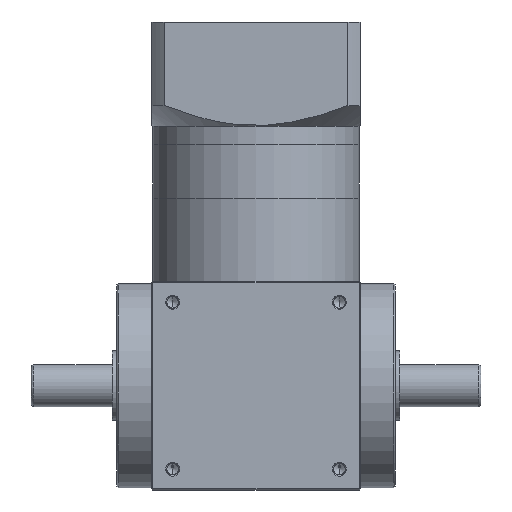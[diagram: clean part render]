
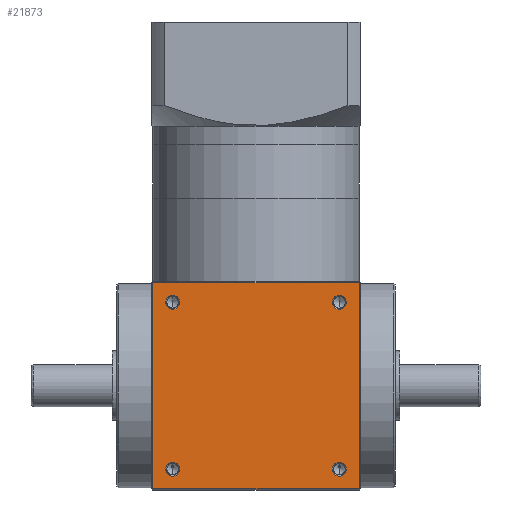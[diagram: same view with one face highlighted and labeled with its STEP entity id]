
A CAD part, front view. The second image highlights one B-rep face of the part: STEP entity #21873.
In plain terms, the highlighted planar face has unit normal (0, -1, 0).
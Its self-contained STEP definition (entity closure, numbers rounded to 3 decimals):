
#245 = CIRCLE ( 'NONE', #16209, 3.025 ) ;
#1349 = VERTEX_POINT ( 'NONE', #24664 ) ;
#2423 = EDGE_CURVE ( 'NONE', #4355, #1349, #16647, .T. ) ;
#2485 = CIRCLE ( 'NONE', #6340, 3.025 ) ;
#2521 = ORIENTED_EDGE ( 'NONE', *, *, #35651, .F. ) ;
#4120 = FACE_BOUND ( 'NONE', #20758, .T. ) ;
#4355 = VERTEX_POINT ( 'NONE', #14441 ) ;
#4534 = CARTESIAN_POINT ( 'NONE',  ( 36., -45., 84.025 ) ) ;
#5221 = CARTESIAN_POINT ( 'NONE',  ( -44.5, -45., 90. ) ) ;
#5791 = EDGE_CURVE ( 'NONE', #28546, #15849, #2485, .T. ) ;
#6340 = AXIS2_PLACEMENT_3D ( 'NONE', #21601, #48656, #25481 ) ;
#6358 = VERTEX_POINT ( 'NONE', #31583 ) ;
#6648 = EDGE_CURVE ( 'NONE', #15849, #28546, #41697, .T. ) ;
#6704 = LINE ( 'NONE', #32397, #25990 ) ;
#6741 = CARTESIAN_POINT ( 'NONE',  ( -36., -45., 9. ) ) ;
#7236 = VECTOR ( 'NONE', #26764, 1000. ) ;
#7255 = DIRECTION ( 'NONE',  ( 0., -1., 0. ) ) ;
#7487 = ORIENTED_EDGE ( 'NONE', *, *, #46150, .F. ) ;
#7703 = EDGE_CURVE ( 'NONE', #25062, #26812, #26520, .T. ) ;
#7707 = ORIENTED_EDGE ( 'NONE', *, *, #34346, .F. ) ;
#8713 = CARTESIAN_POINT ( 'NONE',  ( -45., -45., 0.5 ) ) ;
#8899 = VERTEX_POINT ( 'NONE', #47150 ) ;
#9449 = CARTESIAN_POINT ( 'NONE',  ( 36., -45., 81. ) ) ;
#9955 = CARTESIAN_POINT ( 'NONE',  ( -36., -45., 5.975 ) ) ;
#10233 = VERTEX_POINT ( 'NONE', #24620 ) ;
#10609 = DIRECTION ( 'NONE',  ( 0., 0., -1. ) ) ;
#11879 = VERTEX_POINT ( 'NONE', #4534 ) ;
#13297 = DIRECTION ( 'NONE',  ( 0., 0., -1. ) ) ;
#13459 = EDGE_CURVE ( 'NONE', #10233, #8899, #245, .T. ) ;
#13840 = CARTESIAN_POINT ( 'NONE',  ( -44.5, -45., 0.5 ) ) ;
#13853 = EDGE_CURVE ( 'NONE', #32543, #32532, #48553, .T. ) ;
#13909 = CARTESIAN_POINT ( 'NONE',  ( -36., -45., 81. ) ) ;
#13937 = LINE ( 'NONE', #5221, #34476 ) ;
#14357 = FACE_BOUND ( 'NONE', #26212, .T. ) ;
#14441 = CARTESIAN_POINT ( 'NONE',  ( -36., -45., 84.025 ) ) ;
#15516 = AXIS2_PLACEMENT_3D ( 'NONE', #22201, #49276, #26097 ) ;
#15570 = FACE_BOUND ( 'NONE', #22266, .T. ) ;
#15599 = ORIENTED_EDGE ( 'NONE', *, *, #2423, .F. ) ;
#15849 = VERTEX_POINT ( 'NONE', #9955 ) ;
#16209 = AXIS2_PLACEMENT_3D ( 'NONE', #40314, #17142, #44189 ) ;
#16513 = AXIS2_PLACEMENT_3D ( 'NONE', #30366, #7255, #34231 ) ;
#16647 = CIRCLE ( 'NONE', #41213, 3.025 ) ;
#17142 = DIRECTION ( 'NONE',  ( 0., -1., 0. ) ) ;
#17464 = CIRCLE ( 'NONE', #18985, 3.025 ) ;
#17778 = DIRECTION ( 'NONE',  ( 0., 0., -1. ) ) ;
#18985 = AXIS2_PLACEMENT_3D ( 'NONE', #13909, #40968, #17778 ) ;
#19095 = DIRECTION ( 'NONE',  ( 0., -1., 0. ) ) ;
#19722 = ORIENTED_EDGE ( 'NONE', *, *, #43046, .F. ) ;
#20599 = CARTESIAN_POINT ( 'NONE',  ( -45., -45., 90. ) ) ;
#20758 = EDGE_LOOP ( 'NONE', ( #49583, #37978 ) ) ;
#20760 = DIRECTION ( 'NONE',  ( 0., 1., 0. ) ) ;
#20970 = EDGE_CURVE ( 'NONE', #1349, #4355, #17464, .T. ) ;
#21299 = AXIS2_PLACEMENT_3D ( 'NONE', #20599, #20760, #47822 ) ;
#21601 = CARTESIAN_POINT ( 'NONE',  ( -36., -45., 9. ) ) ;
#21873 = ADVANCED_FACE ( 'NONE', ( #24640, #14357, #15570, #4120, #34908 ), #28362, .F. ) ;
#22201 = CARTESIAN_POINT ( 'NONE',  ( 36., -45., 81. ) ) ;
#22266 = EDGE_LOOP ( 'NONE', ( #7487, #26845 ) ) ;
#22872 = CARTESIAN_POINT ( 'NONE',  ( -45., -45., 89.5 ) ) ;
#23581 = CIRCLE ( 'NONE', #30775, 3.025 ) ;
#23858 = EDGE_CURVE ( 'NONE', #11879, #6358, #33987, .T. ) ;
#24076 = CARTESIAN_POINT ( 'NONE',  ( -36., -45., 12.025 ) ) ;
#24620 = CARTESIAN_POINT ( 'NONE',  ( 36., -45., 12.025 ) ) ;
#24640 = FACE_BOUND ( 'NONE', #33930, .T. ) ;
#24664 = CARTESIAN_POINT ( 'NONE',  ( -36., -45., 77.975 ) ) ;
#24715 = CARTESIAN_POINT ( 'NONE',  ( -44.5, -45., 89.5 ) ) ;
#25062 = VERTEX_POINT ( 'NONE', #24715 ) ;
#25481 = DIRECTION ( 'NONE',  ( 0., 0., -1. ) ) ;
#25483 = CARTESIAN_POINT ( 'NONE',  ( 44.5, -45., 0.5 ) ) ;
#25990 = VECTOR ( 'NONE', #34616, 1000. ) ;
#26097 = DIRECTION ( 'NONE',  ( 0., 0., -1. ) ) ;
#26212 = EDGE_LOOP ( 'NONE', ( #29687, #15599 ) ) ;
#26520 = LINE ( 'NONE', #22872, #7236 ) ;
#26746 = VECTOR ( 'NONE', #28228, 1000. ) ;
#26764 = DIRECTION ( 'NONE',  ( 1., 0., 0. ) ) ;
#26812 = VERTEX_POINT ( 'NONE', #33562 ) ;
#26845 = ORIENTED_EDGE ( 'NONE', *, *, #13459, .F. ) ;
#28228 = DIRECTION ( 'NONE',  ( -1., 0., 0. ) ) ;
#28362 = PLANE ( 'NONE',  #21299 ) ;
#28546 = VERTEX_POINT ( 'NONE', #24076 ) ;
#29013 = ORIENTED_EDGE ( 'NONE', *, *, #13853, .F. ) ;
#29687 = ORIENTED_EDGE ( 'NONE', *, *, #20970, .F. ) ;
#30366 = CARTESIAN_POINT ( 'NONE',  ( 36., -45., 9. ) ) ;
#30775 = AXIS2_PLACEMENT_3D ( 'NONE', #9449, #36446, #13297 ) ;
#31583 = CARTESIAN_POINT ( 'NONE',  ( 36., -45., 77.975 ) ) ;
#32397 = CARTESIAN_POINT ( 'NONE',  ( 44.5, -45., 90. ) ) ;
#32532 = VERTEX_POINT ( 'NONE', #13840 ) ;
#32543 = VERTEX_POINT ( 'NONE', #25483 ) ;
#33318 = EDGE_LOOP ( 'NONE', ( #29013, #19722, #39127, #7707 ) ) ;
#33483 = ORIENTED_EDGE ( 'NONE', *, *, #23858, .F. ) ;
#33562 = CARTESIAN_POINT ( 'NONE',  ( 44.5, -45., 89.5 ) ) ;
#33720 = DIRECTION ( 'NONE',  ( 0., -1., 0. ) ) ;
#33930 = EDGE_LOOP ( 'NONE', ( #2521, #33483 ) ) ;
#33987 = CIRCLE ( 'NONE', #15516, 3.025 ) ;
#34231 = DIRECTION ( 'NONE',  ( 0., 0., -1. ) ) ;
#34346 = EDGE_CURVE ( 'NONE', #32532, #25062, #13937, .T. ) ;
#34476 = VECTOR ( 'NONE', #36099, 1000. ) ;
#34616 = DIRECTION ( 'NONE',  ( 0., 0., -1. ) ) ;
#34908 = FACE_OUTER_BOUND ( 'NONE', #33318, .T. ) ;
#35651 = EDGE_CURVE ( 'NONE', #6358, #11879, #23581, .T. ) ;
#36099 = DIRECTION ( 'NONE',  ( 0., 0., 1. ) ) ;
#36446 = DIRECTION ( 'NONE',  ( 0., -1., 0. ) ) ;
#36636 = CIRCLE ( 'NONE', #16513, 3.025 ) ;
#37978 = ORIENTED_EDGE ( 'NONE', *, *, #5791, .F. ) ;
#39127 = ORIENTED_EDGE ( 'NONE', *, *, #7703, .F. ) ;
#40314 = CARTESIAN_POINT ( 'NONE',  ( 36., -45., 9. ) ) ;
#40673 = AXIS2_PLACEMENT_3D ( 'NONE', #6741, #33720, #10609 ) ;
#40968 = DIRECTION ( 'NONE',  ( 0., -1., 0. ) ) ;
#41213 = AXIS2_PLACEMENT_3D ( 'NONE', #42269, #19095, #46143 ) ;
#41697 = CIRCLE ( 'NONE', #40673, 3.025 ) ;
#42269 = CARTESIAN_POINT ( 'NONE',  ( -36., -45., 81. ) ) ;
#43046 = EDGE_CURVE ( 'NONE', #26812, #32543, #6704, .T. ) ;
#44189 = DIRECTION ( 'NONE',  ( 0., 0., -1. ) ) ;
#46143 = DIRECTION ( 'NONE',  ( 0., 0., -1. ) ) ;
#46150 = EDGE_CURVE ( 'NONE', #8899, #10233, #36636, .T. ) ;
#47150 = CARTESIAN_POINT ( 'NONE',  ( 36., -45., 5.975 ) ) ;
#47822 = DIRECTION ( 'NONE',  ( 0., 0., 1. ) ) ;
#48553 = LINE ( 'NONE', #8713, #26746 ) ;
#48656 = DIRECTION ( 'NONE',  ( 0., -1., 0. ) ) ;
#49276 = DIRECTION ( 'NONE',  ( 0., -1., 0. ) ) ;
#49583 = ORIENTED_EDGE ( 'NONE', *, *, #6648, .F. ) ;
